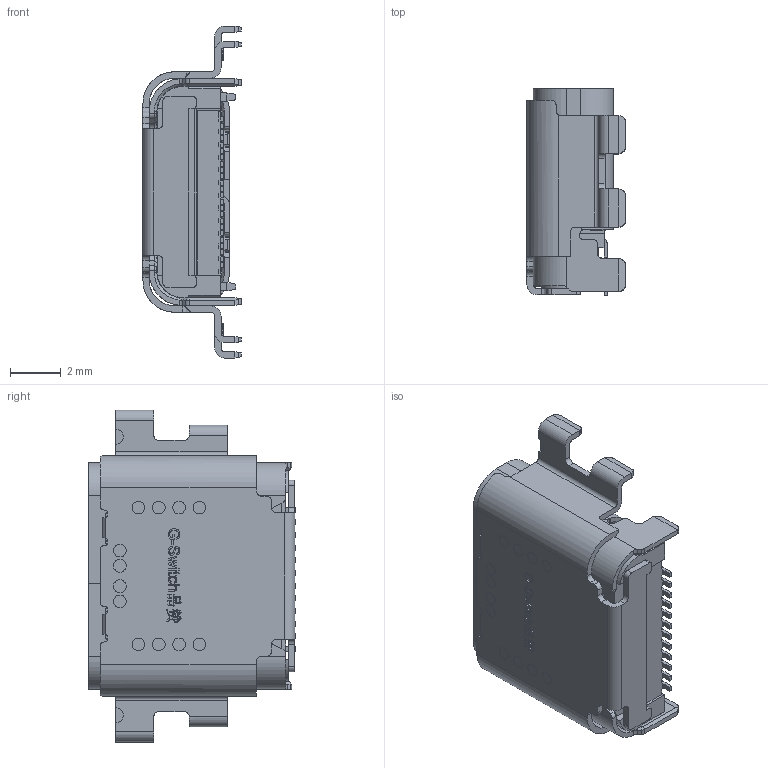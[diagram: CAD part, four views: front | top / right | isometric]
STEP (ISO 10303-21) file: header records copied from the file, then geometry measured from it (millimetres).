
FILE_DESCRIPTION (( 'STEP AP203' ), '1' );
FILE_NAME ('GT-USB-7087B.STEP', '2023-05-24T07:35:39', ( '' ), ( '' ), 'SwSTEP 2.0', 'SolidWorks 2023', '' );
FILE_SCHEMA (( 'CONFIG_CONTROL_DESIGN' ));
Length unit declared in the file: millimetre
Products named in the file (7): GT-USB-7087B.STEP; SHELL_ASM.STEP; OUT_SHELL.STEP; 1.32 Main.STEP; SHELL_.STEP; LTCX009A4A0_ASM.STEP; GT-USB-7087B
Assembly tree (6 placements, depth 5):
  GT-USB-7087B
    GT-USB-7087B.STEP
      LTCX009A4A0_ASM.STEP
        SHELL_ASM.STEP
          SHELL_.STEP
          OUT_SHELL.STEP
      1.32 Main.STEP
Bounding box: 3.89 x 8.14 x 13.09 mm (x, y, z)
Volume: 149.1 mm3; surface area: 764 mm2
Topology: 3 solids, 50 shells, 2280 faces, 6279 edges, 4142 vertices
Faces by surface type: plane 1659, cylinder 501, bspline 96, cone 24
Entity records: 77166 total; most frequent: CARTESIAN_POINT 20041, ORIENTED_EDGE 12558, DIRECTION 10412, EDGE_CURVE 6279, VECTOR 4800, LINE 4800, VERTEX_POINT 4142, AXIS2_PLACEMENT_3D 2806
